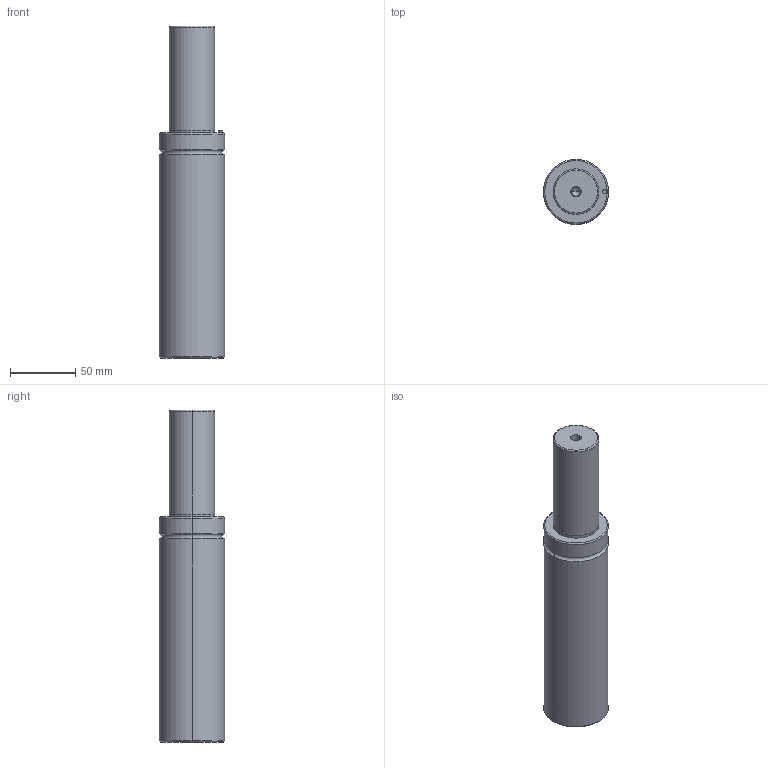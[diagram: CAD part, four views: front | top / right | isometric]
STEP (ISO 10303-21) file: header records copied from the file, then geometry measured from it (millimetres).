
FILE_DESCRIPTION(/* description */ (''),/* implementation_level */ '2;1');
FILE_NAME(/* name */ '3d_gsm50-80_03903_r00.stp',/* time_stamp */ '2011-01-10T14:15:15+09:00',/* author */ ('MISUMI'),/* organization */ (''),/* preprocessor_version */ 'ST-DEVELOPER v11',/* originating_system */ 'UGS - NX 5.0',/* authorisation */ '');
FILE_SCHEMA (('CONFIG_CONTROL_DESIGN'));
Length unit declared in the file: millimetre
Products named in the file (1): 3d_gsm50-80_03903_r00
Bounding box: 50 x 50 x 255 mm (x, y, z)
Volume: 414632.2 mm3; surface area: 41679.6 mm2
Topology: 1 solids, 1 shells, 50 faces, 106 edges, 60 vertices
Faces by surface type: cylinder 26, cone 10, plane 8, torus 6
Entity records: 1382 total; most frequent: DIRECTION 262, CARTESIAN_POINT 209, ORIENTED_EDGE 196, AXIS2_PLACEMENT_3D 113, EDGE_CURVE 98, CIRCLE 62, EDGE_LOOP 60, VERTEX_POINT 60
